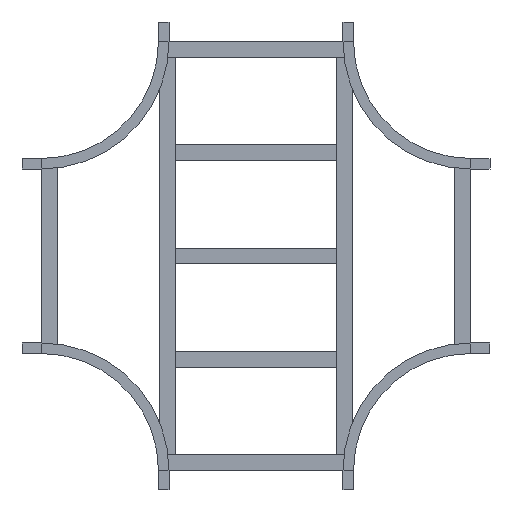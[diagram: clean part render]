
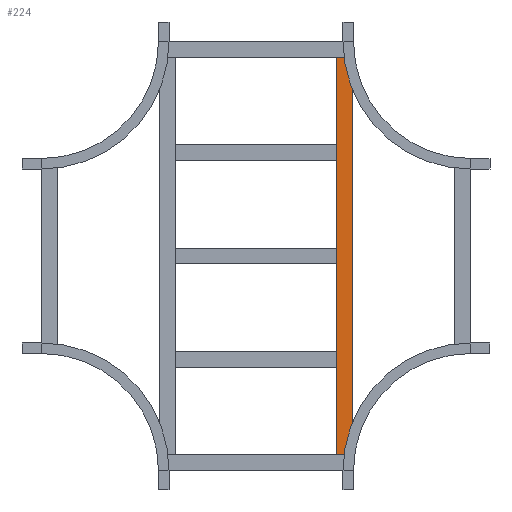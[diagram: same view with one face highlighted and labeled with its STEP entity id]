
A CAD part, front view. The second image highlights one B-rep face of the part: STEP entity #224.
In plain terms, the highlighted planar face has unit normal (0, -1, 0).
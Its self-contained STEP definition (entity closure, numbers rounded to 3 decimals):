
#22 = LINE ( 'NONE', #1102, #279 ) ;
#28 = LINE ( 'NONE', #218, #696 ) ;
#137 = CARTESIAN_POINT ( 'NONE',  ( 509.5, 0., 20.25 ) ) ;
#158 = CARTESIAN_POINT ( 'NONE',  ( 509.5, 0., 20.25 ) ) ;
#195 = VERTEX_POINT ( 'NONE', #975 ) ;
#218 = CARTESIAN_POINT ( 'NONE',  ( 509.5, 0., -20.25 ) ) ;
#224 = ADVANCED_FACE ( 'NONE', ( #1132 ), #1231, .F. ) ;
#230 = AXIS2_PLACEMENT_3D ( 'NONE', #158, #592, #240 ) ;
#240 = DIRECTION ( 'NONE',  ( 0., 0., 1. ) ) ;
#270 = DIRECTION ( 'NONE',  ( -1., 0., 0. ) ) ;
#279 = VECTOR ( 'NONE', #987, 1000. ) ;
#341 = EDGE_CURVE ( 'NONE', #649, #1208, #28, .T. ) ;
#345 = ORIENTED_EDGE ( 'NONE', *, *, #1013, .T. ) ;
#378 = CARTESIAN_POINT ( 'NONE',  ( 509.5, 0., -20.25 ) ) ;
#466 = EDGE_CURVE ( 'NONE', #1011, #1208, #22, .T. ) ;
#486 = VECTOR ( 'NONE', #494, 1000. ) ;
#491 = ORIENTED_EDGE ( 'NONE', *, *, #1164, .F. ) ;
#494 = DIRECTION ( 'NONE',  ( 0., 0., -1. ) ) ;
#556 = VECTOR ( 'NONE', #270, 1000. ) ;
#592 = DIRECTION ( 'NONE',  ( 0., 1., 0. ) ) ;
#610 = EDGE_LOOP ( 'NONE', ( #843, #958, #491, #345 ) ) ;
#649 = VERTEX_POINT ( 'NONE', #378 ) ;
#696 = VECTOR ( 'NONE', #964, 1000. ) ;
#750 = CARTESIAN_POINT ( 'NONE',  ( -509.5, 0., -20.25 ) ) ;
#843 = ORIENTED_EDGE ( 'NONE', *, *, #466, .T. ) ;
#958 = ORIENTED_EDGE ( 'NONE', *, *, #341, .F. ) ;
#964 = DIRECTION ( 'NONE',  ( -1., 0., 0. ) ) ;
#975 = CARTESIAN_POINT ( 'NONE',  ( 509.5, 0., 20.25 ) ) ;
#987 = DIRECTION ( 'NONE',  ( 0., 0., -1. ) ) ;
#998 = CARTESIAN_POINT ( 'NONE',  ( 509.5, 0., 20.25 ) ) ;
#1011 = VERTEX_POINT ( 'NONE', #1333 ) ;
#1013 = EDGE_CURVE ( 'NONE', #195, #1011, #1022, .T. ) ;
#1022 = LINE ( 'NONE', #998, #556 ) ;
#1102 = CARTESIAN_POINT ( 'NONE',  ( -509.5, 0., 20.25 ) ) ;
#1132 = FACE_OUTER_BOUND ( 'NONE', #610, .T. ) ;
#1164 = EDGE_CURVE ( 'NONE', #195, #649, #1257, .T. ) ;
#1208 = VERTEX_POINT ( 'NONE', #750 ) ;
#1231 = PLANE ( 'NONE',  #230 ) ;
#1257 = LINE ( 'NONE', #137, #486 ) ;
#1333 = CARTESIAN_POINT ( 'NONE',  ( -509.5, 0., 20.25 ) ) ;
